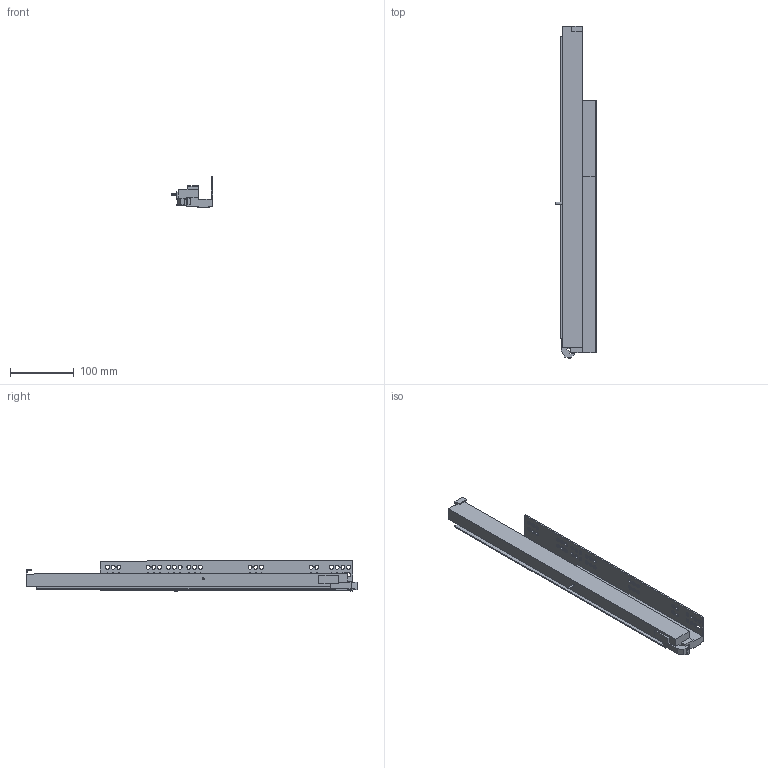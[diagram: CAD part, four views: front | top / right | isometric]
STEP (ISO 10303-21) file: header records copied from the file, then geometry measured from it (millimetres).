
FILE_DESCRIPTION (( 'STEP AP203' ), '1' );
FILE_NAME ('IMOS_Dynapro_Tipmatic_D51_NL_0_RE.STEP', '2013-03-22T12:03:37', ( 'Grass GmbH' ), ( 'Grass GmbH' ), 'SwSTEP 2.0', 'SolidWorks 2012', '' );
FILE_SCHEMA (( 'CONFIG_CONTROL_DESIGN' ));
Length unit declared in the file: millimetre
Products named in the file (1): IMOS_Dynapro_Tipmatic_D51_NL_0_RE
Bounding box: 65.92 x 521.55 x 48.48 mm (x, y, z)
Volume: 499924.5 mm3; surface area: 122821.3 mm2
Topology: 1 solids, 1 shells, 190 faces, 549 edges, 366 vertices
Faces by surface type: plane 99, cylinder 91
Entity records: 6536 total; most frequent: DIRECTION 1113, CARTESIAN_POINT 1106, ORIENTED_EDGE 1098, EDGE_CURVE 549, AXIS2_PLACEMENT_3D 373, VECTOR 367, LINE 367, VERTEX_POINT 366
